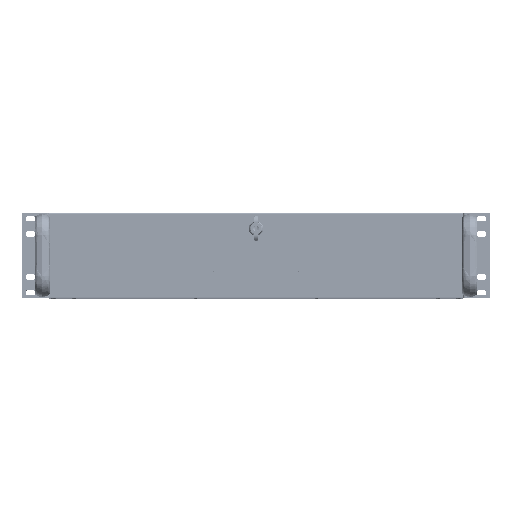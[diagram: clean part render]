
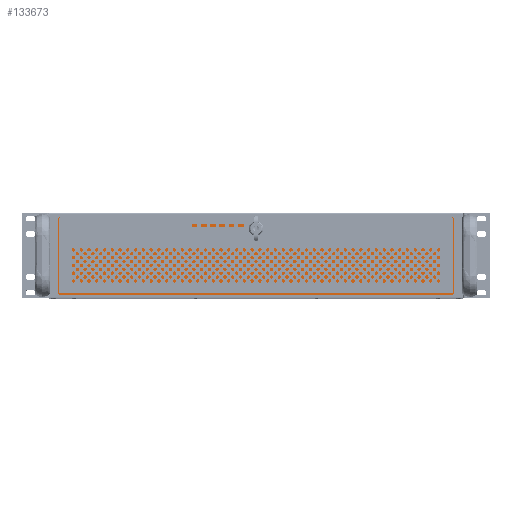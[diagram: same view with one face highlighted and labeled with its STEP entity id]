
A CAD part, top view. The second image highlights one B-rep face of the part: STEP entity #133673.
In plain terms, the highlighted planar face has unit normal (0, 0, 1).
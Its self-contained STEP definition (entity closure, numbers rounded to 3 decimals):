
#1387 = CARTESIAN_POINT ( 'NONE',  ( 212.2, 87.4, 522.6 ) ) ;
#1776 = CARTESIAN_POINT ( 'NONE',  ( 212.2, 1.2, 522.6 ) ) ;
#2006 = CARTESIAN_POINT ( 'NONE',  ( -212.2, 1.2, 522.6 ) ) ;
#3618 = LINE ( 'NONE', #58172, #3635 ) ;
#3635 = VECTOR ( 'NONE', #58158, 1000. ) ;
#3764 = LINE ( 'NONE', #18662, #3770 ) ;
#3767 = LINE ( 'NONE', #18684, #3776 ) ;
#3770 = VECTOR ( 'NONE', #18656, 1000. ) ;
#3776 = VECTOR ( 'NONE', #18689, 1000. ) ;
#15694 = CARTESIAN_POINT ( 'NONE',  ( 212.2, 1.2, 522.6 ) ) ;
#15698 = PLANE ( 'NONE',  #133676 ) ;
#15700 = DIRECTION ( 'NONE',  ( 0., 0., -1. ) ) ;
#15702 = DIRECTION ( 'NONE',  ( -1., 0., 0. ) ) ;
#18656 = DIRECTION ( 'NONE',  ( 0., 1., 0. ) ) ;
#18662 = CARTESIAN_POINT ( 'NONE',  ( 212.2, 44.3, 522.6 ) ) ;
#18684 = CARTESIAN_POINT ( 'NONE',  ( 0., 1.2, 522.6 ) ) ;
#18689 = DIRECTION ( 'NONE',  ( -1., 0., 0. ) ) ;
#34559 = EDGE_LOOP ( 'NONE', ( #88083, #88045, #88028, #88010 ) ) ;
#52206 = VERTEX_POINT ( 'NONE', #128605 ) ;
#52399 = VERTEX_POINT ( 'NONE', #1387 ) ;
#52652 = VERTEX_POINT ( 'NONE', #1776 ) ;
#52913 = VERTEX_POINT ( 'NONE', #2006 ) ;
#58158 = DIRECTION ( 'NONE',  ( -1., 0., 0. ) ) ;
#58172 = CARTESIAN_POINT ( 'NONE',  ( 0., 87.4, 522.6 ) ) ;
#68097 = EDGE_CURVE ( 'NONE', #52913, #52206, #95723, .T. ) ;
#68817 = EDGE_CURVE ( 'NONE', #52399, #52206, #3618, .T. ) ;
#68846 = EDGE_CURVE ( 'NONE', #52652, #52399, #3764, .T. ) ;
#68847 = EDGE_CURVE ( 'NONE', #52652, #52913, #3767, .T. ) ;
#71651 = FACE_OUTER_BOUND ( 'NONE', #34559, .T. ) ;
#88010 = ORIENTED_EDGE ( 'NONE', *, *, #68846, .T. ) ;
#88028 = ORIENTED_EDGE ( 'NONE', *, *, #68847, .F. ) ;
#88045 = ORIENTED_EDGE ( 'NONE', *, *, #68097, .F. ) ;
#88083 = ORIENTED_EDGE ( 'NONE', *, *, #68817, .T. ) ;
#95723 = LINE ( 'NONE', #103930, #95734 ) ;
#95734 = VECTOR ( 'NONE', #103942, 1000. ) ;
#103930 = CARTESIAN_POINT ( 'NONE',  ( -212.2, 44.3, 522.6 ) ) ;
#103942 = DIRECTION ( 'NONE',  ( 0., 1., 0. ) ) ;
#128605 = CARTESIAN_POINT ( 'NONE',  ( -212.2, 87.4, 522.6 ) ) ;
#133673 = ADVANCED_FACE ( 'NONE', ( #71651 ), #15698, .F. ) ;
#133676 = AXIS2_PLACEMENT_3D ( 'NONE', #15694, #15700, #15702 ) ;
